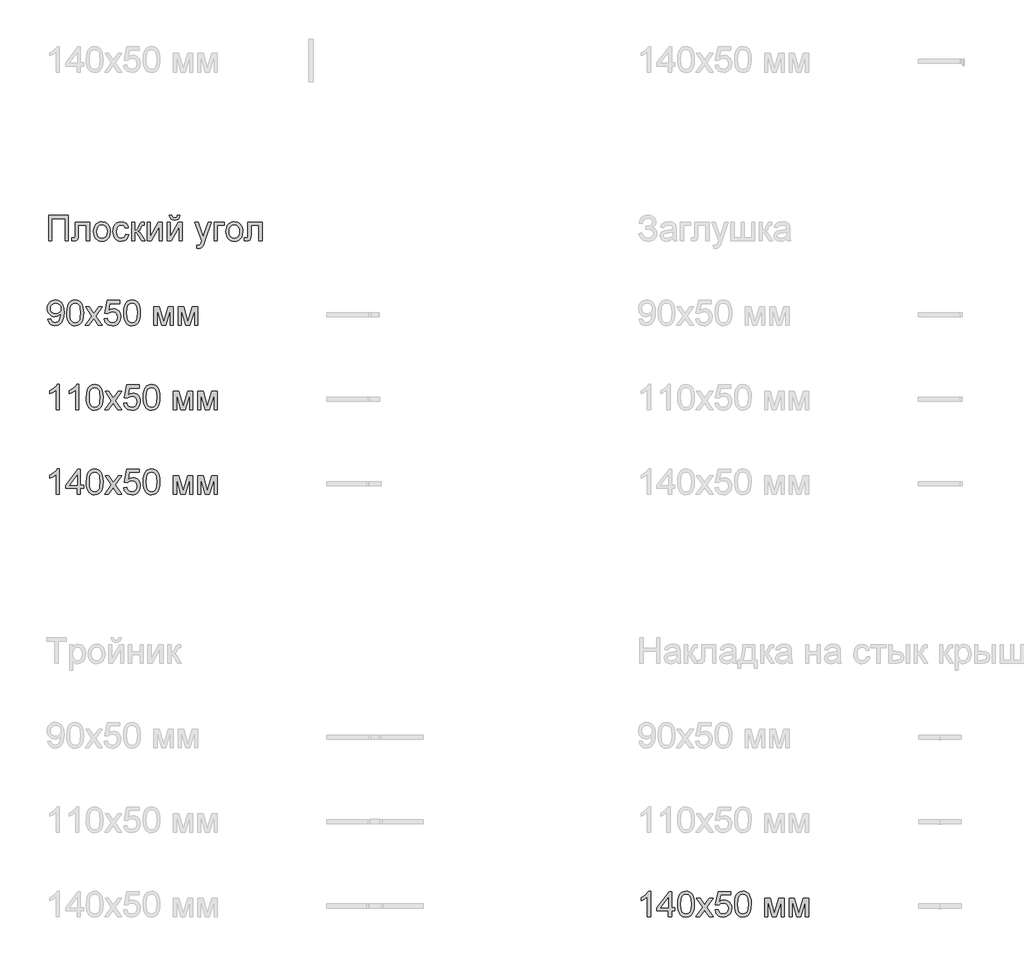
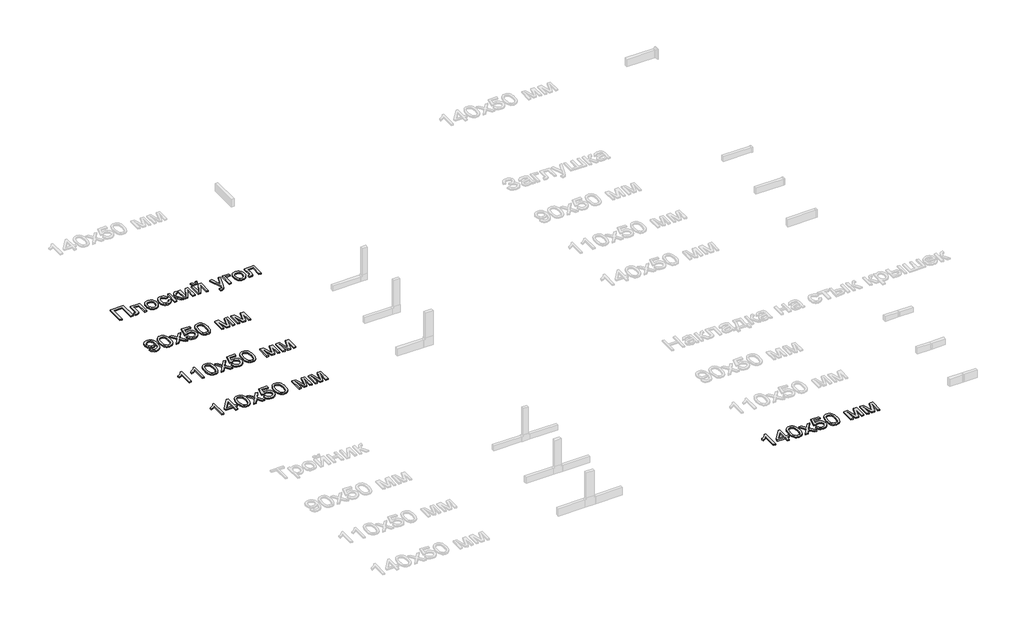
# One storey, part 84 of 168: 5 proxies.
"""IFC4 building model written with IfcOpenShell, lengths in millimetres."""

from ifc_helpers import new_model, si_unit, origin, origin_with_axes, place, context, project, spatial, polyline, outline, extrude, element, save

model = new_model("IFC4")

# Units and contexts
model_context = context("Model", 3, world=origin())
ifc_project = project(units=[si_unit("LENGTHUNIT", "METRE", prefix="MILLI")], contexts=[model_context])

# Site, building, storey
site = spatial("IfcSite", under=ifc_project)
building = spatial("IfcBuilding", under=site)
storey = spatial("IfcBuildingStorey", under=building, Name="Этаж 01", Elevation=0.0)

# Proxies
placement = place(None, origin())
element("IfcBuildingElementProxy", 1, Name="300 мм Arial 2", ObjectType="300 мм Arial 2", at=placement, inside=storey, context=model_context, shape_type="SweptSolid", body=[
    extrude(outline(polyline([(11078.8177316, -16847.0367511), (11314.2622085, -16847.0367511), (11314.2622085, -17148.4056816), (11276.5910922, -17148.4056816), (11276.5910922, -16884.7078674), (11116.4888479, -16884.7078674), (11116.4888479, -17148.4056816), (11078.8177316, -17148.4056816), (11078.8177316, -16847.0367511)])), origin_with_axes(), (0.0, 0.0, 1.0), 20.0),
    extrude(outline(polyline([(11394.3133306, -16927.0878733), (11563.833354, -16927.0878733), (11563.833354, -17148.1849524), (11526.1622377, -17148.1849524), (11526.1622377, -16964.7589896), (11431.9844469, -16964.7589896), (11431.9844469, -17070.3411222), (11429.4460612, -17119.0486984), (11424.6911864, -17130.0759612), (11415.5033335, -17139.6133019), (11401.5606059, -17146.2075866), (11382.5411068, -17148.4056816), (11351.9333248, -17146.4926952), (11351.9333248, -17110.7345653), (11368.7823202, -17110.7345653), (11385.8152565, -17108.4169087), (11392.6210734, -17101.0592688), (11394.3133306, -17068.2074066), (11394.3133306, -16927.0878733)])), origin_with_axes(), (0.0, 0.0, 1.0), 20.0),
    extrude(outline(polyline([(11610.9222494, -17037.7467774), (11612.9593959, -17009.0841715), (11619.0708356, -16984.385494), (11629.2565683, -16963.6507451), (11643.5165942, -16946.8799246), (11657.873189, -16936.160763), (11673.719706, -16928.504219), (11691.056145, -16923.9102925), (11709.8825061, -16922.3789837), (11730.6655396, -16924.2436856), (11749.4574117, -16929.8377912), (11766.2581226, -16939.1613005), (11781.0676722, -16952.2142135), (11793.154895, -16968.5550719), (11801.7886255, -16987.7424172), (11806.9688639, -17009.7762495), (11808.69561, -17034.6565687), (11805.6421894, -17072.7139611), (11796.4819278, -17101.6846682), (11781.4815394, -17123.3805088), (11760.9077388, -17139.6133019), (11736.4711773, -17149.7392538), (11709.8825061, -17153.1145711), (11688.79597, -17151.256767), (11669.8293539, -17145.6833548), (11652.9826577, -17136.3943344), (11638.2558816, -17123.3897059), (11626.2974175, -17106.8901984), (11617.7556574, -17087.1165412), (11612.6306014, -17064.0687342), (11610.9222494, -17037.7467774)]), holes=[polyline([(11648.5933657, -17037.673201), (11652.9527673, -17071.7666649), (11666.0309723, -17096.0560737), (11685.712659, -17110.5966095), (11709.8825061, -17115.4434548), (11733.9419886, -17110.5690184), (11753.5868871, -17095.9457091), (11766.665092, -17071.3344036), (11771.0244937, -17036.4959786), (11766.6375009, -17003.3957961), (11753.4765225, -16979.4374812), (11733.8040328, -16964.8969453), (11709.8825061, -16960.0501), (11685.712659, -16964.8785512), (11666.0309723, -16979.3639048), (11652.9527673, -17003.5981312), (11648.5933657, -17037.673201)])]), origin_with_axes(), (0.0, 0.0, 1.0), 20.0),
    extrude(outline(polyline([(11992.342302, -17068.3545594), (12030.0134183, -17073.063449), (12019.5103873, -17106.5683017), (11999.7735183, -17131.88778), (11972.6606152, -17147.8078733), (11940.0294823, -17153.1145711), (11918.9015594, -17151.2636648), (11899.9579359, -17145.710946), (11883.1986118, -17136.4564145), (11868.623587, -17123.5000705), (11856.8260713, -17107.0856357), (11848.3992743, -17087.456832), (11843.3431962, -17064.6136594), (11841.6578368, -17038.5561178), (11844.5365134, -17005.032871), (11853.1725432, -16975.9793904), (11867.703882, -16952.5177162), (11888.2684856, -16935.7698884), (11912.870594, -16925.7267099), (11939.5144475, -16922.3789837), (11971.3454371, -16926.9775087), (11996.7936741, -16940.7730835), (12015.0498181, -16963.0299442), (12025.3045288, -16993.0123268), (11987.6334124, -16997.7212163), (11980.8000044, -16981.2860882), (11970.1590177, -16969.5046673), (11956.2990635, -16962.4137419), (11939.8087531, -16960.0501), (11915.464162, -16964.7038073), (11896.1411602, -16978.664929), (11883.5320049, -17002.6876233), (11879.3289531, -17037.5260482), (11883.4400344, -17072.8335227), (11895.7732783, -17096.9389904), (11914.7467922, -17110.8173387), (11938.7786835, -17115.4434548), (11958.2856263, -17112.5555811), (11974.279296, -17103.8919602), (11985.9135641, -17089.2318626), (11992.342302, -17068.3545594)])), origin_with_axes(), (0.0, 0.0, 1.0), 20.0),
    extrude(outline(polyline([(12062.9756451, -16927.0878733), (12100.6467614, -16927.0878733), (12100.6467614, -17021.265664), (12115.9690465, -17019.5734069), (12125.8834662, -17014.4966353), (12134.6574518, -17001.2528835), (12146.5584344, -16975.0596854), (12163.7385235, -16941.0306009), (12178.8952617, -16929.9573528), (12206.4496232, -16927.0878733), (12213.6601103, -16927.0878733), (12213.6601103, -16964.9797188), (12203.5065672, -16964.7589896), (12185.1124675, -16968.7321151), (12172.1630212, -16993.5273616), (12156.9694948, -17020.345959), (12135.6691273, -17033.4793463), (12147.606898, -17038.7814455), (12159.4343042, -17048.1394438), (12182.7580227, -17079.0231373), (12223.0778894, -17148.4056816), (12180.2564251, -17148.4056816), (12140.7458988, -17080.4946653), (12120.8802711, -17051.7630814), (12111.5912507, -17046.5483542), (12100.6467614, -17044.8101117), (12100.6467614, -17148.4056816), (12062.9756451, -17148.4056816), (12062.9756451, -16927.0878733)])), origin_with_axes(), (0.0, 0.0, 1.0), 20.0),
    extrude(outline(polyline([(12246.6223371, -16927.0878733), (12284.2934534, -16927.0878733), (12284.2934534, -17095.8721327), (12376.8525633, -16927.0878733), (12425.5601395, -16927.0878733), (12425.5601395, -17148.4056816), (12387.8890232, -17148.4056816), (12387.8890232, -16980.6514918), (12295.9185244, -17148.4056816), (12246.6223371, -17148.4056816), (12246.6223371, -16927.0878733)])), origin_with_axes(), (0.0, 0.0, 1.0), 20.0),
    extrude(outline(polyline([(12482.066814, -16927.0878733), (12519.7379303, -16927.0878733), (12519.7379303, -17095.8721327), (12612.2970403, -16927.0878733), (12661.0046164, -16927.0878733), (12661.0046164, -17148.4056816), (12623.3335001, -17148.4056816), (12623.3335001, -16980.6514918), (12531.3630013, -17148.4056816), (12482.066814, -17148.4056816), (12482.066814, -16927.0878733)])), origin_with_axes(), (0.0, 0.0, 1.0), 20.0),
    extrude(outline(polyline([(12604.497942, -16847.0367511), (12632.7512792, -16847.0367511), (12626.6720292, -16871.160613), (12614.467544, -16888.9385104), (12596.6896466, -16899.8921968), (12573.89016, -16903.5434256), (12549.1500958, -16899.9197879), (12529.9650497, -16889.048875), (12516.8500566, -16871.2985687), (12510.3201512, -16847.0367511), (12538.5734884, -16847.0367511), (12542.546614, -16859.4435714), (12549.1684899, -16868.2635422), (12558.4759044, -16873.5334518), (12570.5056456, -16875.2900883), (12584.0804912, -16873.5886341), (12593.9029405, -16868.4842714), (12600.5248164, -16859.7194829), (12604.497942, -16847.0367511)])), origin_with_axes(), (0.0, 0.0, 1.0), 20.0),
    extrude(outline(polyline([(12835.2335293, -17233.1656933), (12830.5246398, -17196.8925285), (12849.6545035, -17200.2034665), (12867.5335685, -17196.0463999), (12878.496452, -17184.4581171), (12888.7971478, -17156.7198147), (12891.7402038, -17147.5963412), (12811.6890816, -16927.0878733), (12851.4203371, -16927.0878733), (12893.8739194, -17049.9604597), (12908.6627756, -17099.1094942), (12923.4516318, -17055.6994188), (12967.0824364, -16927.0878733), (13006.5193863, -16927.0878733), (12929.4848965, -17153.7031823), (12909.472116, -17202.8522169), (12899.2266024, -17218.5423839), (12887.6199254, -17229.4132969), (12874.1370503, -17235.7592613), (12858.2629422, -17237.8745828), (12835.2335293, -17233.1656933)])), origin_with_axes(), (0.0, 0.0, 1.0), 20.0),
    extrude(outline(polyline([(13037.7157795, -16927.0878733), (13160.1469075, -16927.0878733), (13160.1469075, -16964.7589896), (13075.3868958, -16964.7589896), (13075.3868958, -17148.4056816), (13037.7157795, -17148.4056816), (13037.7157795, -16927.0878733)])), origin_with_axes(), (0.0, 0.0, 1.0), 20.0),
    extrude(outline(polyline([(13178.9824656, -17037.7467774), (13181.0196122, -17009.0841715), (13187.1310518, -16984.385494), (13197.3167846, -16963.6507451), (13211.5768104, -16946.8799246), (13225.9334053, -16936.160763), (13241.7799222, -16928.504219), (13259.1163612, -16923.9102925), (13277.9427223, -16922.3789837), (13298.7257558, -16924.2436856), (13317.517628, -16929.8377912), (13334.3183388, -16939.1613005), (13349.1278884, -16952.2142135), (13361.2151112, -16968.5550719), (13369.8488418, -16987.7424172), (13375.0290801, -17009.7762495), (13376.7558262, -17034.6565687), (13373.7024057, -17072.7139611), (13364.542144, -17101.6846682), (13349.5417556, -17123.3805088), (13328.9679551, -17139.6133019), (13304.5313935, -17149.7392538), (13277.9427223, -17153.1145711), (13256.8561862, -17151.256767), (13237.8895701, -17145.6833548), (13221.042874, -17136.3943344), (13206.3160979, -17123.3897059), (13194.3576338, -17106.8901984), (13185.8158737, -17087.1165412), (13180.6908176, -17064.0687342), (13178.9824656, -17037.7467774)]), holes=[polyline([(13216.6535819, -17037.673201), (13221.0129836, -17071.7666649), (13234.0911885, -17096.0560737), (13253.7728752, -17110.5966095), (13277.9427223, -17115.4434548), (13302.0022048, -17110.5690184), (13321.6471034, -17095.9457091), (13334.7253083, -17071.3344036), (13339.0847099, -17036.4959786), (13334.6977171, -17003.3957961), (13321.5367388, -16979.4374812), (13301.8642491, -16964.8969453), (13277.9427223, -16960.0501), (13253.7728752, -16964.8785512), (13234.0911885, -16979.3639048), (13221.0129836, -17003.5981312), (13216.6535819, -17037.673201)])]), origin_with_axes(), (0.0, 0.0, 1.0), 20.0),
    extrude(outline(polyline([(13437.9713902, -16927.0878733), (13607.4914136, -16927.0878733), (13607.4914136, -17148.1849524), (13569.8202973, -17148.1849524), (13569.8202973, -16964.7589896), (13475.6425065, -16964.7589896), (13475.6425065, -17070.3411222), (13473.1041208, -17119.0486984), (13468.349246, -17130.0759612), (13459.1613932, -17139.6133019), (13445.2186655, -17146.2075866), (13426.1991664, -17148.4056816), (13395.5913844, -17146.4926952), (13395.5913844, -17110.7345653), (13412.4403798, -17110.7345653), (13429.4733161, -17108.4169087), (13436.2791331, -17101.0592688), (13437.9713902, -17068.2074066), (13437.9713902, -16927.0878733)])), origin_with_axes(), (0.0, 0.0, 1.0), 20.0),
])
element("IfcBuildingElementProxy", 2, Name="300 мм Arial 2", ObjectType="300 мм Arial 2", at=placement, inside=storey, context=model_context, shape_type="SweptSolid", body=[
    extrude(outline(polyline([(11069.3999525, -18073.063449), (11107.0710688, -18068.3545594), (11113.5090037, -18089.7377004), (11123.9936406, -18104.2966303), (11138.267462, -18112.6567487), (11156.0729505, -18115.4434548), (11172.0482262, -18113.6500301), (11186.5703679, -18108.2697559), (11198.6368974, -18099.8912435), (11207.2453361, -18089.1031039), (11219.5693829, -18056.3616064), (11225.0140364, -18012.6572253), (11224.7933072, -18005.2995854), (11211.7426935, -18021.2288758), (11194.6637718, -18033.8472283), (11174.7889471, -18042.0693909), (11153.3506238, -18044.8101117), (11135.455464, -18043.1362486), (11118.9996425, -18038.1146594), (11103.9831593, -18029.745344), (11090.4060144, -18018.0283025), (11079.1557231, -18003.5751386), (11071.1198008, -17986.9974562), (11066.2982474, -17968.2952553), (11064.6910629, -17947.4685358), (11066.3764223, -17925.9474391), (11071.4325005, -17906.6336343), (11079.8592975, -17889.5271216), (11091.6568132, -17874.6279008), (11105.9927147, -17862.5567728), (11122.0346689, -17853.9345385), (11139.782676, -17848.761198), (11159.2367357, -17847.0367511), (11187.3337231, -17850.9730885), (11212.9107188, -17862.7821005), (11234.3030568, -17881.8751761), (11249.8460711, -17907.6637039), (11259.3098354, -17943.3114693), (11262.4644236, -17991.9822572), (11259.3190325, -18043.5869041), (11249.8828593, -18083.4745094), (11234.2386775, -18113.447695), (11212.4692604, -18135.3090825), (11185.5127072, -18148.663199), (11154.307117, -18153.1145711), (11122.0990483, -18147.8630556), (11096.4024909, -18132.1085092), (11078.4314555, -18106.8442132), (11069.3999525, -18073.063449)]), holes=[polyline([(11224.7933072, -17946.585619), (11220.7282112, -17921.0546085), (11208.5329231, -17901.40971), (11189.6053944, -17888.8833281), (11165.3435768, -17884.7078674), (11140.1804484, -17889.2052248), (11120.020515, -17902.697297), (11106.7767632, -17923.344674), (11102.3621793, -17949.3079458), (11106.5376399, -17972.585679), (11119.0640218, -17991.0625522), (11138.7273145, -18003.1198846), (11164.3135072, -18007.1389954), (11188.3821868, -18003.1198846), (11207.7603709, -17991.0625522), (11220.5350732, -17971.9050973), (11224.7933072, -17946.585619)])]), origin_with_axes(), (0.0, 0.0, 1.0), 20.0),
    extrude(outline(polyline([(11295.4266503, -18000.1492375), (11298.1949623, -17951.9107109), (11306.4998984, -17913.4394512), (11320.258685, -17884.1468474), (11339.3885487, -17863.4442881), (11364.0274454, -17851.1386354), (11394.3133306, -17847.0367511), (11417.5266845, -17849.4647723), (11438.3120172, -17856.7488358), (11455.6944415, -17868.6038331), (11468.6990701, -17884.7446556), (11478.5215193, -17905.0333477), (11486.3574058, -17929.3319534), (11491.4893597, -17960.1880558), (11493.2000109, -18000.1492375), (11490.4592901, -18048.1118526), (11482.2371275, -18086.4911418), (11468.5611143, -18115.8113368), (11449.4588417, -18136.5966695), (11424.7647628, -18148.9850957), (11394.3133306, -18153.1145711), (11373.5647861, -18151.3211464), (11355.1706863, -18145.9408722), (11339.1310313, -18136.9737486), (11325.4458211, -18124.4197755), (11312.3124339, -18101.7260549), (11302.931443, -18073.4497251), (11297.3028485, -18039.5907859), (11295.4266503, -18000.1492375)]), holes=[polyline([(11333.0977666, -18000.0756611), (11337.5123506, -18059.3322535), (11343.0305805, -18079.6002522), (11350.7561024, -18093.6280525), (11370.4745773, -18109.9896042), (11394.3133306, -18115.4434548), (11418.1520839, -18109.9712101), (11437.8705589, -18093.5544761), (11445.5960808, -18079.5036831), (11451.1143107, -18059.240283), (11455.5288946, -18000.0756611), (11451.2614635, -17942.152641), (11445.9271745, -17921.9513209), (11438.45917, -17907.5901275), (11418.7774833, -17890.4284325), (11393.8718722, -17884.7078674), (11370.2906363, -17889.7478508), (11351.3447136, -17904.8678008), (11343.3616743, -17920.5027856), (11337.6595034, -17941.5824239), (11333.0977666, -18000.0756611)])]), origin_with_axes(), (0.0, 0.0, 1.0), 20.0),
    extrude(outline(polyline([(11512.0355691, -18148.4056816), (11592.5281496, -18037.1581662), (11516.7444586, -17927.0878733), (11562.0675204, -17927.0878733), (11598.6349907, -17980.0628806), (11615.7047153, -18005.0788562), (11630.4935715, -17984.6246173), (11672.1378134, -17927.0878733), (11717.4608752, -17927.0878733), (11637.8512114, -18037.1581662), (11714.5178192, -18148.4056816), (11669.1947574, -18148.4056816), (11623.0623552, -18081.5247348), (11614.6010693, -18069.3110526), (11557.3586309, -18148.4056816), (11512.0355691, -18148.4056816)])), origin_with_axes(), (0.0, 0.0, 1.0), 20.0),
    extrude(outline(polyline([(11738.0622669, -18068.3545594), (11775.7333832, -18063.6456699), (11782.6495647, -18086.2612155), (11794.7160942, -18102.4572204), (11811.8777893, -18112.1968962), (11834.0794677, -18115.4434548), (11861.0820061, -18110.9277033), (11881.3155158, -18097.3804488), (11893.9522624, -18076.3651899), (11898.1645112, -18049.4454249), (11894.2189768, -18024.0983554), (11882.3823736, -18004.7109743), (11862.5627311, -17992.4053215), (11834.6680789, -17988.3034373), (11816.3935407, -17989.9405121), (11801.5954875, -17994.8517368), (11780.4422728, -18011.847885), (11742.7711565, -18007.1389954), (11775.7333832, -17851.7456407), (11921.7089589, -17851.7456407), (11921.7089589, -17889.416757), (11806.1940124, -17889.416757), (11790.080781, -17972.4109351), (11816.991349, -17956.0769745), (11845.1895039, -17950.632321), (11863.5353192, -17952.3199796), (11880.3866138, -17957.3829556), (11895.7433878, -17965.8212488), (11909.6056413, -17977.6348594), (11921.0812603, -17992.1018189), (11929.278131, -18008.5001588), (11934.1962534, -18026.8298792), (11935.8356275, -18047.0909801), (11929.9311215, -18084.7620964), (11922.550489, -18101.5559095), (11912.2176034, -18116.9885592), (11896.5642245, -18132.7936894), (11878.2988835, -18144.0830681), (11857.4215803, -18150.8566954), (11833.9323149, -18153.1145711), (11796.9325832, -18147.3112326), (11781.2539124, -18140.0570595), (11767.4560383, -18129.9012172), (11755.9758208, -18117.3495434), (11747.2501197, -18102.9078758), (11738.0622669, -18068.3545594)])), origin_with_axes(), (0.0, 0.0, 1.0), 20.0),
    extrude(outline(polyline([(11968.7978543, -18000.1492375), (11971.5661663, -17951.9107109), (11979.8711023, -17913.4394512), (11993.629889, -17884.1468474), (12012.7597527, -17863.4442881), (12037.3986493, -17851.1386354), (12067.6845346, -17847.0367511), (12090.8978885, -17849.4647723), (12111.6832212, -17856.7488358), (12129.0656455, -17868.6038331), (12142.070274, -17884.7446556), (12151.8927233, -17905.0333477), (12159.7286098, -17929.3319534), (12164.8605636, -17960.1880558), (12166.5712149, -18000.1492375), (12163.830494, -18048.1118526), (12155.6083314, -18086.4911418), (12141.9323183, -18115.8113368), (12122.8300457, -18136.5966695), (12098.1359667, -18148.9850957), (12067.6845346, -18153.1145711), (12046.9359901, -18151.3211464), (12028.5418903, -18145.9408722), (12012.5022353, -18136.9737486), (11998.8170251, -18124.4197755), (11985.6836379, -18101.7260549), (11976.302647, -18073.4497251), (11970.6740525, -18039.5907859), (11968.7978543, -18000.1492375)]), holes=[polyline([(12006.4689706, -18000.0756611), (12010.8835545, -18059.3322535), (12016.4017845, -18079.6002522), (12024.1273064, -18093.6280525), (12043.8457813, -18109.9896042), (12067.6845346, -18115.4434548), (12091.5232879, -18109.9712101), (12111.2417628, -18093.5544761), (12118.9672847, -18079.5036831), (12124.4855147, -18059.240283), (12128.9000986, -18000.0756611), (12124.6326675, -17942.152641), (12119.2983785, -17921.9513209), (12111.830374, -17907.5901275), (12092.1486873, -17890.4284325), (12067.2430762, -17884.7078674), (12043.6618403, -17889.7478508), (12024.7159176, -17904.8678008), (12016.7328783, -17920.5027856), (12011.0307073, -17941.5824239), (12006.4689706, -18000.0756611)])]), origin_with_axes(), (0.0, 0.0, 1.0), 20.0),
    extrude(outline(polyline([(12326.6734592, -17927.0878733), (12391.4942668, -17927.0878733), (12441.4526417, -18104.2598421), (12495.3105658, -17927.0878733), (12557.4090466, -17927.0878733), (12557.4090466, -18148.4056816), (12519.7379303, -18148.4056816), (12519.7379303, -17970.2036431), (12465.5857006, -18148.4056816), (12416.1423604, -18148.4056816), (12364.3445755, -17961.6687808), (12364.3445755, -18148.4056816), (12326.6734592, -18148.4056816), (12326.6734592, -17927.0878733)])), origin_with_axes(), (0.0, 0.0, 1.0), 20.0),
    extrude(outline(polyline([(12613.915721, -17927.0878733), (12678.7365286, -17927.0878733), (12728.6949035, -18104.2598421), (12782.5528276, -17927.0878733), (12844.6513084, -17927.0878733), (12844.6513084, -18148.4056816), (12806.9801921, -18148.4056816), (12806.9801921, -17970.2036431), (12752.8279624, -18148.4056816), (12703.3846223, -18148.4056816), (12651.5868373, -17961.6687808), (12651.5868373, -18148.4056816), (12613.915721, -18148.4056816), (12613.915721, -17927.0878733)])), origin_with_axes(), (0.0, 0.0, 1.0), 20.0),
])
element("IfcBuildingElementProxy", 3, Name="300 мм Arial 2", ObjectType="300 мм Arial 2", at=placement, inside=storey, context=model_context, shape_type="SweptSolid", body=[
    extrude(outline(polyline([(11205.9577491, -19148.4056816), (11168.2866328, -19148.4056816), (11168.2866328, -18913.5498158), (11132.6020793, -18938.9704617), (11092.9444002, -18957.9899609), (11092.9444002, -18922.3789837), (11122.5313096, -18906.2841464), (11148.1634877, -18887.1358886), (11168.3694062, -18866.7736202), (11181.6775374, -18847.0367511), (11205.9577491, -18847.0367511), (11205.9577491, -19148.4056816)])), origin_with_axes(), (0.0, 0.0, 1.0), 20.0),
    extrude(outline(polyline([(11436.6933365, -19148.4056816), (11399.0222202, -19148.4056816), (11399.0222202, -18913.5498158), (11363.3376666, -18938.9704617), (11323.6799876, -18957.9899609), (11323.6799876, -18922.3789837), (11353.266897, -18906.2841464), (11378.899075, -18887.1358886), (11399.1049936, -18866.7736202), (11412.4131248, -18847.0367511), (11436.6933365, -18847.0367511), (11436.6933365, -19148.4056816)])), origin_with_axes(), (0.0, 0.0, 1.0), 20.0),
    extrude(outline(polyline([(11526.1622377, -19000.1492375), (11528.9305497, -18951.9107109), (11537.2354858, -18913.4394512), (11550.9942724, -18884.1468474), (11570.1241361, -18863.4442881), (11594.7630327, -18851.1386354), (11625.048918, -18847.0367511), (11648.2622719, -18849.4647723), (11669.0476046, -18856.7488358), (11686.4300289, -18868.6038331), (11699.4346574, -18884.7446556), (11709.2571067, -18905.0333477), (11717.0929932, -18929.3319534), (11722.224947, -18960.1880558), (11723.9355983, -19000.1492375), (11721.1948774, -19048.1118526), (11712.9727148, -19086.4911418), (11699.2967017, -19115.8113368), (11680.1944291, -19136.5966695), (11655.5003502, -19148.9850957), (11625.048918, -19153.1145711), (11604.3003735, -19151.3211464), (11585.9062737, -19145.9408722), (11569.8666187, -19136.9737486), (11556.1814085, -19124.4197755), (11543.0480213, -19101.7260549), (11533.6670304, -19073.4497251), (11528.0384359, -19039.5907859), (11526.1622377, -19000.1492375)]), holes=[polyline([(11563.833354, -19000.0756611), (11568.2479379, -19059.3322535), (11573.7661679, -19079.6002522), (11581.4916898, -19093.6280525), (11601.2101647, -19109.9896042), (11625.048918, -19115.4434548), (11648.8876713, -19109.9712101), (11668.6061462, -19093.5544761), (11676.3316681, -19079.5036831), (11681.8498981, -19059.240283), (11686.264482, -19000.0756611), (11681.9970509, -18942.152641), (11676.6627619, -18921.9513209), (11669.1947574, -18907.5901275), (11649.5130707, -18890.4284325), (11624.6074596, -18884.7078674), (11601.0262237, -18889.7478508), (11582.080301, -18904.8678008), (11574.0972617, -18920.5027856), (11568.3950907, -18941.5824239), (11563.833354, -19000.0756611)])]), origin_with_axes(), (0.0, 0.0, 1.0), 20.0),
    extrude(outline(polyline([(11742.7711565, -19148.4056816), (11823.263737, -19037.1581662), (11747.480046, -18927.0878733), (11792.8031078, -18927.0878733), (11829.3705781, -18980.0628806), (11846.4403027, -19005.0788562), (11861.2291589, -18984.6246173), (11902.8734008, -18927.0878733), (11948.1964626, -18927.0878733), (11868.5867988, -19037.1581662), (11945.2534066, -19148.4056816), (11899.9303448, -19148.4056816), (11853.7979426, -19081.5247348), (11845.3366567, -19069.3110526), (11788.0942183, -19148.4056816), (11742.7711565, -19148.4056816)])), origin_with_axes(), (0.0, 0.0, 1.0), 20.0),
    extrude(outline(polyline([(11968.7978543, -19068.3545594), (12006.4689706, -19063.6456699), (12013.3851521, -19086.2612155), (12025.4516816, -19102.4572204), (12042.6133766, -19112.1968962), (12064.815055, -19115.4434548), (12091.8175935, -19110.9277033), (12112.0511032, -19097.3804488), (12124.6878498, -19076.3651899), (12128.9000986, -19049.4454249), (12124.9545642, -19024.0983554), (12113.117961, -19004.7109743), (12093.2983185, -18992.4053215), (12065.4036662, -18988.3034373), (12047.1291281, -18989.9405121), (12032.3310749, -18994.8517368), (12011.1778601, -19011.847885), (11973.5067438, -19007.1389954), (12006.4689706, -18851.7456407), (12152.4445463, -18851.7456407), (12152.4445463, -18889.416757), (12036.9295998, -18889.416757), (12020.8163684, -18972.4109351), (12047.7269364, -18956.0769745), (12075.9250913, -18950.632321), (12094.2709065, -18952.3199796), (12111.1222012, -18957.3829556), (12126.4789752, -18965.8212488), (12140.3412286, -18977.6348594), (12151.8168476, -18992.1018189), (12160.0137183, -19008.5001588), (12164.9318408, -19026.8298792), (12166.5712149, -19047.0909801), (12160.6667089, -19084.7620964), (12153.2860764, -19101.5559095), (12142.9531908, -19116.9885592), (12127.2998119, -19132.7936894), (12109.0344709, -19144.0830681), (12088.1571676, -19150.8566954), (12064.6679022, -19153.1145711), (12027.6681706, -19147.3112326), (12011.9894998, -19140.0570595), (11998.1916257, -19129.9012172), (11986.7114082, -19117.3495434), (11977.9857071, -19102.9078758), (11968.7978543, -19068.3545594)])), origin_with_axes(), (0.0, 0.0, 1.0), 20.0),
    extrude(outline(polyline([(12199.5334417, -19000.1492375), (12202.3017537, -18951.9107109), (12210.6066897, -18913.4394512), (12224.3654763, -18884.1468474), (12243.4953401, -18863.4442881), (12268.1342367, -18851.1386354), (12298.420122, -18847.0367511), (12321.6334759, -18849.4647723), (12342.4188086, -18856.7488358), (12359.8012329, -18868.6038331), (12372.8058614, -18884.7446556), (12382.6283107, -18905.0333477), (12390.4641972, -18929.3319534), (12395.596151, -18960.1880558), (12397.3068023, -19000.1492375), (12394.5660814, -19048.1118526), (12386.3439188, -19086.4911418), (12372.6679056, -19115.8113368), (12353.565633, -19136.5966695), (12328.8715541, -19148.9850957), (12298.420122, -19153.1145711), (12277.6715774, -19151.3211464), (12259.2774777, -19145.9408722), (12243.2378227, -19136.9737486), (12229.5526125, -19124.4197755), (12216.4192252, -19101.7260549), (12207.0382344, -19073.4497251), (12201.4096398, -19039.5907859), (12199.5334417, -19000.1492375)]), holes=[polyline([(12237.204558, -19000.0756611), (12241.6191419, -19059.3322535), (12247.1373718, -19079.6002522), (12254.8628937, -19093.6280525), (12274.5813687, -19109.9896042), (12298.420122, -19115.4434548), (12322.2588753, -19109.9712101), (12341.9773502, -19093.5544761), (12349.7028721, -19079.5036831), (12355.221102, -19059.240283), (12359.635686, -19000.0756611), (12355.3682548, -18942.152641), (12350.0339659, -18921.9513209), (12342.5659614, -18907.5901275), (12322.8842747, -18890.4284325), (12297.9786636, -18884.7078674), (12274.3974277, -18889.7478508), (12255.4515049, -18904.8678008), (12247.4684656, -18920.5027856), (12241.7662947, -18941.5824239), (12237.204558, -19000.0756611)])]), origin_with_axes(), (0.0, 0.0, 1.0), 20.0),
    extrude(outline(polyline([(12557.4090466, -18927.0878733), (12622.2298541, -18927.0878733), (12672.1882291, -19104.2598421), (12726.0461532, -18927.0878733), (12788.144634, -18927.0878733), (12788.144634, -19148.4056816), (12750.4735176, -19148.4056816), (12750.4735176, -18970.2036431), (12696.321288, -19148.4056816), (12646.8779478, -19148.4056816), (12595.0801629, -18961.6687808), (12595.0801629, -19148.4056816), (12557.4090466, -19148.4056816), (12557.4090466, -18927.0878733)])), origin_with_axes(), (0.0, 0.0, 1.0), 20.0),
    extrude(outline(polyline([(12844.6513084, -18927.0878733), (12909.472116, -18927.0878733), (12959.4304909, -19104.2598421), (13013.288415, -18927.0878733), (13075.3868958, -18927.0878733), (13075.3868958, -19148.4056816), (13037.7157795, -19148.4056816), (13037.7157795, -18970.2036431), (12983.5635498, -19148.4056816), (12934.1202096, -19148.4056816), (12882.3224247, -18961.6687808), (12882.3224247, -19148.4056816), (12844.6513084, -19148.4056816), (12844.6513084, -18927.0878733)])), origin_with_axes(), (0.0, 0.0, 1.0), 20.0),
])
element("IfcBuildingElementProxy", 4, Name="300 мм Arial 2", ObjectType="300 мм Arial 2", at=placement, inside=storey, context=model_context, shape_type="SweptSolid", body=[
    extrude(outline(polyline([(11205.9577491, -20148.4056816), (11168.2866328, -20148.4056816), (11168.2866328, -19913.5498158), (11132.6020793, -19938.9704617), (11092.9444002, -19957.9899609), (11092.9444002, -19922.3789837), (11122.5313096, -19906.2841464), (11148.1634877, -19887.1358886), (11168.3694062, -19866.7736202), (11181.6775374, -19847.0367511), (11205.9577491, -19847.0367511), (11205.9577491, -20148.4056816)])), origin_with_axes(), (0.0, 0.0, 1.0), 20.0),
    extrude(outline(polyline([(11417.8577783, -20148.4056816), (11417.8577783, -20077.7723385), (11281.2999817, -20077.7723385), (11281.2999817, -20040.1012222), (11427.2755574, -19851.7456407), (11455.5288946, -19851.7456407), (11455.5288946, -20040.1012222), (11493.2000109, -20040.1012222), (11493.2000109, -20077.7723385), (11455.5288946, -20077.7723385), (11455.5288946, -20148.4056816), (11417.8577783, -20148.4056816)]), holes=[polyline([(11417.8577783, -20040.1012222), (11417.8577783, -19923.7033589), (11327.6531131, -20040.1012222), (11417.8577783, -20040.1012222)])]), origin_with_axes(), (0.0, 0.0, 1.0), 20.0),
    extrude(outline(polyline([(11526.1622377, -20000.1492375), (11528.9305497, -19951.9107109), (11537.2354858, -19913.4394512), (11550.9942724, -19884.1468474), (11570.1241361, -19863.4442881), (11594.7630327, -19851.1386354), (11625.048918, -19847.0367511), (11648.2622719, -19849.4647723), (11669.0476046, -19856.7488358), (11686.4300289, -19868.6038331), (11699.4346574, -19884.7446556), (11709.2571067, -19905.0333477), (11717.0929932, -19929.3319534), (11722.224947, -19960.1880558), (11723.9355983, -20000.1492375), (11721.1948774, -20048.1118526), (11712.9727148, -20086.4911418), (11699.2967017, -20115.8113368), (11680.1944291, -20136.5966695), (11655.5003502, -20148.9850957), (11625.048918, -20153.1145711), (11604.3003735, -20151.3211464), (11585.9062737, -20145.9408722), (11569.8666187, -20136.9737486), (11556.1814085, -20124.4197755), (11543.0480213, -20101.7260549), (11533.6670304, -20073.4497251), (11528.0384359, -20039.5907859), (11526.1622377, -20000.1492375)]), holes=[polyline([(11563.833354, -20000.0756611), (11568.2479379, -20059.3322535), (11573.7661679, -20079.6002522), (11581.4916898, -20093.6280525), (11601.2101647, -20109.9896042), (11625.048918, -20115.4434548), (11648.8876713, -20109.9712101), (11668.6061462, -20093.5544761), (11676.3316681, -20079.5036831), (11681.8498981, -20059.240283), (11686.264482, -20000.0756611), (11681.9970509, -19942.152641), (11676.6627619, -19921.9513209), (11669.1947574, -19907.5901275), (11649.5130707, -19890.4284325), (11624.6074596, -19884.7078674), (11601.0262237, -19889.7478508), (11582.080301, -19904.8678008), (11574.0972617, -19920.5027856), (11568.3950907, -19941.5824239), (11563.833354, -20000.0756611)])]), origin_with_axes(), (0.0, 0.0, 1.0), 20.0),
    extrude(outline(polyline([(11742.7711565, -20148.4056816), (11823.263737, -20037.1581662), (11747.480046, -19927.0878733), (11792.8031078, -19927.0878733), (11829.3705781, -19980.0628806), (11846.4403027, -20005.0788562), (11861.2291589, -19984.6246173), (11902.8734008, -19927.0878733), (11948.1964626, -19927.0878733), (11868.5867988, -20037.1581662), (11945.2534066, -20148.4056816), (11899.9303448, -20148.4056816), (11853.7979426, -20081.5247348), (11845.3366567, -20069.3110526), (11788.0942183, -20148.4056816), (11742.7711565, -20148.4056816)])), origin_with_axes(), (0.0, 0.0, 1.0), 20.0),
    extrude(outline(polyline([(11968.7978543, -20068.3545594), (12006.4689706, -20063.6456699), (12013.3851521, -20086.2612155), (12025.4516816, -20102.4572204), (12042.6133766, -20112.1968962), (12064.815055, -20115.4434548), (12091.8175935, -20110.9277033), (12112.0511032, -20097.3804488), (12124.6878498, -20076.3651899), (12128.9000986, -20049.4454249), (12124.9545642, -20024.0983554), (12113.117961, -20004.7109743), (12093.2983185, -19992.4053215), (12065.4036662, -19988.3034373), (12047.1291281, -19989.9405121), (12032.3310749, -19994.8517368), (12011.1778601, -20011.847885), (11973.5067438, -20007.1389954), (12006.4689706, -19851.7456407), (12152.4445463, -19851.7456407), (12152.4445463, -19889.416757), (12036.9295998, -19889.416757), (12020.8163684, -19972.4109351), (12047.7269364, -19956.0769745), (12075.9250913, -19950.632321), (12094.2709065, -19952.3199796), (12111.1222012, -19957.3829556), (12126.4789752, -19965.8212488), (12140.3412286, -19977.6348594), (12151.8168476, -19992.1018189), (12160.0137183, -20008.5001588), (12164.9318408, -20026.8298792), (12166.5712149, -20047.0909801), (12160.6667089, -20084.7620964), (12153.2860764, -20101.5559095), (12142.9531908, -20116.9885592), (12127.2998119, -20132.7936894), (12109.0344709, -20144.0830681), (12088.1571676, -20150.8566954), (12064.6679022, -20153.1145711), (12027.6681706, -20147.3112326), (12011.9894998, -20140.0570595), (11998.1916257, -20129.9012172), (11986.7114082, -20117.3495434), (11977.9857071, -20102.9078758), (11968.7978543, -20068.3545594)])), origin_with_axes(), (0.0, 0.0, 1.0), 20.0),
    extrude(outline(polyline([(12199.5334417, -20000.1492375), (12202.3017537, -19951.9107109), (12210.6066897, -19913.4394512), (12224.3654763, -19884.1468474), (12243.4953401, -19863.4442881), (12268.1342367, -19851.1386354), (12298.420122, -19847.0367511), (12321.6334759, -19849.4647723), (12342.4188086, -19856.7488358), (12359.8012329, -19868.6038331), (12372.8058614, -19884.7446556), (12382.6283107, -19905.0333477), (12390.4641972, -19929.3319534), (12395.596151, -19960.1880558), (12397.3068023, -20000.1492375), (12394.5660814, -20048.1118526), (12386.3439188, -20086.4911418), (12372.6679056, -20115.8113368), (12353.565633, -20136.5966695), (12328.8715541, -20148.9850957), (12298.420122, -20153.1145711), (12277.6715774, -20151.3211464), (12259.2774777, -20145.9408722), (12243.2378227, -20136.9737486), (12229.5526125, -20124.4197755), (12216.4192252, -20101.7260549), (12207.0382344, -20073.4497251), (12201.4096398, -20039.5907859), (12199.5334417, -20000.1492375)]), holes=[polyline([(12237.204558, -20000.0756611), (12241.6191419, -20059.3322535), (12247.1373718, -20079.6002522), (12254.8628937, -20093.6280525), (12274.5813687, -20109.9896042), (12298.420122, -20115.4434548), (12322.2588753, -20109.9712101), (12341.9773502, -20093.5544761), (12349.7028721, -20079.5036831), (12355.221102, -20059.240283), (12359.635686, -20000.0756611), (12355.3682548, -19942.152641), (12350.0339659, -19921.9513209), (12342.5659614, -19907.5901275), (12322.8842747, -19890.4284325), (12297.9786636, -19884.7078674), (12274.3974277, -19889.7478508), (12255.4515049, -19904.8678008), (12247.4684656, -19920.5027856), (12241.7662947, -19941.5824239), (12237.204558, -20000.0756611)])]), origin_with_axes(), (0.0, 0.0, 1.0), 20.0),
    extrude(outline(polyline([(12557.4090466, -19927.0878733), (12622.2298541, -19927.0878733), (12672.1882291, -20104.2598421), (12726.0461532, -19927.0878733), (12788.144634, -19927.0878733), (12788.144634, -20148.4056816), (12750.4735176, -20148.4056816), (12750.4735176, -19970.2036431), (12696.321288, -20148.4056816), (12646.8779478, -20148.4056816), (12595.0801629, -19961.6687808), (12595.0801629, -20148.4056816), (12557.4090466, -20148.4056816), (12557.4090466, -19927.0878733)])), origin_with_axes(), (0.0, 0.0, 1.0), 20.0),
    extrude(outline(polyline([(12844.6513084, -19927.0878733), (12909.472116, -19927.0878733), (12959.4304909, -20104.2598421), (13013.288415, -19927.0878733), (13075.3868958, -19927.0878733), (13075.3868958, -20148.4056816), (13037.7157795, -20148.4056816), (13037.7157795, -19970.2036431), (12983.5635498, -20148.4056816), (12934.1202096, -20148.4056816), (12882.3224247, -19961.6687808), (12882.3224247, -20148.4056816), (12844.6513084, -20148.4056816), (12844.6513084, -19927.0878733)])), origin_with_axes(), (0.0, 0.0, 1.0), 20.0),
])
element("IfcBuildingElementProxy", 5, Name="300 мм Arial 2", ObjectType="300 мм Arial 2", at=placement, inside=storey, context=model_context, shape_type="SweptSolid", body=[
    extrude(outline(polyline([(18205.9577491, -25148.4056816), (18168.2866328, -25148.4056816), (18168.2866328, -24913.5498158), (18132.6020793, -24938.9704617), (18092.9444002, -24957.9899609), (18092.9444002, -24922.3789837), (18122.5313096, -24906.2841464), (18148.1634877, -24887.1358886), (18168.3694062, -24866.7736202), (18181.6775374, -24847.0367511), (18205.9577491, -24847.0367511), (18205.9577491, -25148.4056816)])), origin_with_axes(), (0.0, 0.0, 1.0), 20.0),
    extrude(outline(polyline([(18417.8577783, -25148.4056816), (18417.8577783, -25077.7723385), (18281.2999817, -25077.7723385), (18281.2999817, -25040.1012222), (18427.2755574, -24851.7456407), (18455.5288946, -24851.7456407), (18455.5288946, -25040.1012222), (18493.2000109, -25040.1012222), (18493.2000109, -25077.7723385), (18455.5288946, -25077.7723385), (18455.5288946, -25148.4056816), (18417.8577783, -25148.4056816)]), holes=[polyline([(18417.8577783, -25040.1012222), (18417.8577783, -24923.7033589), (18327.6531131, -25040.1012222), (18417.8577783, -25040.1012222)])]), origin_with_axes(), (0.0, 0.0, 1.0), 20.0),
    extrude(outline(polyline([(18526.1622377, -25000.1492375), (18528.9305497, -24951.9107109), (18537.2354858, -24913.4394512), (18550.9942724, -24884.1468474), (18570.1241361, -24863.4442881), (18594.7630327, -24851.1386354), (18625.048918, -24847.0367511), (18648.2622719, -24849.4647723), (18669.0476046, -24856.7488358), (18686.4300289, -24868.6038331), (18699.4346574, -24884.7446556), (18709.2571067, -24905.0333477), (18717.0929932, -24929.3319534), (18722.224947, -24960.1880558), (18723.9355983, -25000.1492375), (18721.1948774, -25048.1118526), (18712.9727148, -25086.4911418), (18699.2967017, -25115.8113368), (18680.1944291, -25136.5966695), (18655.5003502, -25148.9850957), (18625.048918, -25153.1145711), (18604.3003735, -25151.3211464), (18585.9062737, -25145.9408722), (18569.8666187, -25136.9737486), (18556.1814085, -25124.4197755), (18543.0480213, -25101.7260549), (18533.6670304, -25073.4497251), (18528.0384359, -25039.5907859), (18526.1622377, -25000.1492375)]), holes=[polyline([(18563.833354, -25000.0756611), (18568.2479379, -25059.3322535), (18573.7661679, -25079.6002522), (18581.4916898, -25093.6280525), (18601.2101647, -25109.9896042), (18625.048918, -25115.4434548), (18648.8876713, -25109.9712101), (18668.6061462, -25093.5544761), (18676.3316681, -25079.5036831), (18681.8498981, -25059.240283), (18686.264482, -25000.0756611), (18681.9970509, -24942.152641), (18676.6627619, -24921.9513209), (18669.1947574, -24907.5901275), (18649.5130707, -24890.4284325), (18624.6074596, -24884.7078674), (18601.0262237, -24889.7478508), (18582.080301, -24904.8678008), (18574.0972617, -24920.5027856), (18568.3950907, -24941.5824239), (18563.833354, -25000.0756611)])]), origin_with_axes(), (0.0, 0.0, 1.0), 20.0),
    extrude(outline(polyline([(18742.7711565, -25148.4056816), (18823.263737, -25037.1581662), (18747.480046, -24927.0878733), (18792.8031078, -24927.0878733), (18829.3705781, -24980.0628806), (18846.4403027, -25005.0788562), (18861.2291589, -24984.6246173), (18902.8734008, -24927.0878733), (18948.1964626, -24927.0878733), (18868.5867988, -25037.1581662), (18945.2534066, -25148.4056816), (18899.9303448, -25148.4056816), (18853.7979426, -25081.5247348), (18845.3366567, -25069.3110526), (18788.0942183, -25148.4056816), (18742.7711565, -25148.4056816)])), origin_with_axes(), (0.0, 0.0, 1.0), 20.0),
    extrude(outline(polyline([(18968.7978543, -25068.3545594), (19006.4689706, -25063.6456699), (19013.3851521, -25086.2612155), (19025.4516816, -25102.4572204), (19042.6133766, -25112.1968962), (19064.815055, -25115.4434548), (19091.8175935, -25110.9277033), (19112.0511032, -25097.3804488), (19124.6878498, -25076.3651899), (19128.9000986, -25049.4454249), (19124.9545642, -25024.0983554), (19113.117961, -25004.7109743), (19093.2983185, -24992.4053215), (19065.4036662, -24988.3034373), (19047.1291281, -24989.9405121), (19032.3310749, -24994.8517368), (19011.1778601, -25011.847885), (18973.5067438, -25007.1389954), (19006.4689706, -24851.7456407), (19152.4445463, -24851.7456407), (19152.4445463, -24889.416757), (19036.9295998, -24889.416757), (19020.8163684, -24972.4109351), (19047.7269364, -24956.0769745), (19075.9250913, -24950.632321), (19094.2709065, -24952.3199796), (19111.1222012, -24957.3829556), (19126.4789752, -24965.8212488), (19140.3412286, -24977.6348594), (19151.8168476, -24992.1018189), (19160.0137183, -25008.5001588), (19164.9318408, -25026.8298792), (19166.5712149, -25047.0909801), (19160.6667089, -25084.7620964), (19153.2860764, -25101.5559095), (19142.9531908, -25116.9885592), (19127.2998119, -25132.7936894), (19109.0344709, -25144.0830681), (19088.1571676, -25150.8566954), (19064.6679022, -25153.1145711), (19027.6681706, -25147.3112326), (19011.9894998, -25140.0570595), (18998.1916257, -25129.9012172), (18986.7114082, -25117.3495434), (18977.9857071, -25102.9078758), (18968.7978543, -25068.3545594)])), origin_with_axes(), (0.0, 0.0, 1.0), 20.0),
    extrude(outline(polyline([(19199.5334417, -25000.1492375), (19202.3017537, -24951.9107109), (19210.6066897, -24913.4394512), (19224.3654763, -24884.1468474), (19243.4953401, -24863.4442881), (19268.1342367, -24851.1386354), (19298.420122, -24847.0367511), (19321.6334759, -24849.4647723), (19342.4188086, -24856.7488358), (19359.8012329, -24868.6038331), (19372.8058614, -24884.7446556), (19382.6283107, -24905.0333477), (19390.4641972, -24929.3319534), (19395.596151, -24960.1880558), (19397.3068023, -25000.1492375), (19394.5660814, -25048.1118526), (19386.3439188, -25086.4911418), (19372.6679056, -25115.8113368), (19353.565633, -25136.5966695), (19328.8715541, -25148.9850957), (19298.420122, -25153.1145711), (19277.6715774, -25151.3211464), (19259.2774777, -25145.9408722), (19243.2378227, -25136.9737486), (19229.5526125, -25124.4197755), (19216.4192252, -25101.7260549), (19207.0382344, -25073.4497251), (19201.4096398, -25039.5907859), (19199.5334417, -25000.1492375)]), holes=[polyline([(19237.204558, -25000.0756611), (19241.6191419, -25059.3322535), (19247.1373718, -25079.6002522), (19254.8628937, -25093.6280525), (19274.5813687, -25109.9896042), (19298.420122, -25115.4434548), (19322.2588753, -25109.9712101), (19341.9773502, -25093.5544761), (19349.7028721, -25079.5036831), (19355.221102, -25059.240283), (19359.635686, -25000.0756611), (19355.3682548, -24942.152641), (19350.0339659, -24921.9513209), (19342.5659614, -24907.5901275), (19322.8842747, -24890.4284325), (19297.9786636, -24884.7078674), (19274.3974277, -24889.7478508), (19255.4515049, -24904.8678008), (19247.4684656, -24920.5027856), (19241.7662947, -24941.5824239), (19237.204558, -25000.0756611)])]), origin_with_axes(), (0.0, 0.0, 1.0), 20.0),
    extrude(outline(polyline([(19557.4090466, -24927.0878733), (19622.2298541, -24927.0878733), (19672.1882291, -25104.2598421), (19726.0461532, -24927.0878733), (19788.144634, -24927.0878733), (19788.144634, -25148.4056816), (19750.4735176, -25148.4056816), (19750.4735176, -24970.2036431), (19696.321288, -25148.4056816), (19646.8779478, -25148.4056816), (19595.0801629, -24961.6687808), (19595.0801629, -25148.4056816), (19557.4090466, -25148.4056816), (19557.4090466, -24927.0878733)])), origin_with_axes(), (0.0, 0.0, 1.0), 20.0),
    extrude(outline(polyline([(19844.6513084, -24927.0878733), (19909.472116, -24927.0878733), (19959.4304909, -25104.2598421), (20013.288415, -24927.0878733), (20075.3868958, -24927.0878733), (20075.3868958, -25148.4056816), (20037.7157795, -25148.4056816), (20037.7157795, -24970.2036431), (19983.5635498, -25148.4056816), (19934.1202096, -25148.4056816), (19882.3224247, -24961.6687808), (19882.3224247, -25148.4056816), (19844.6513084, -25148.4056816), (19844.6513084, -24927.0878733)])), origin_with_axes(), (0.0, 0.0, 1.0), 20.0),
])

save(model, "model.ifc")
